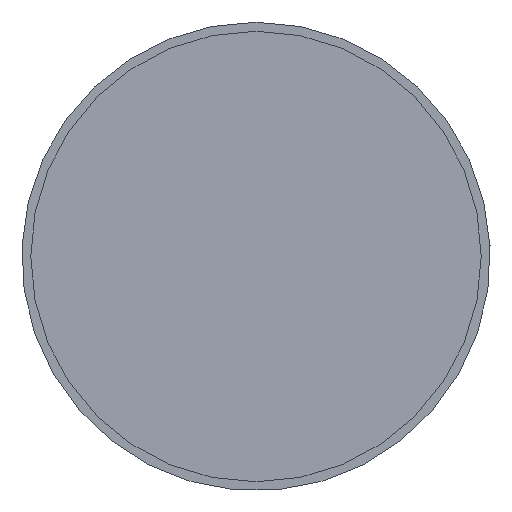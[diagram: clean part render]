
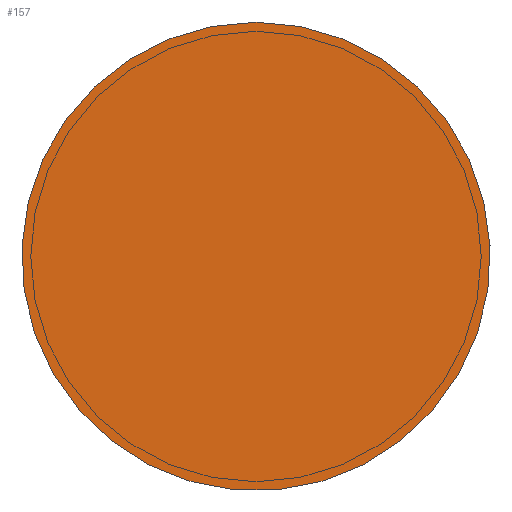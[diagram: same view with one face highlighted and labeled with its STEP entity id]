
A CAD part, left-side view. The second image highlights one B-rep face of the part: STEP entity #157.
In plain terms, the highlighted planar face has unit normal (-1, 0, 0).
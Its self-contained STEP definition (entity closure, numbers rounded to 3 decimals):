
#129 = VERTEX_POINT('',#130);
#130 = CARTESIAN_POINT('',(-5028.,0.,20.8));
#136 = EDGE_CURVE('',#129,#129,#137,.T.);
#137 = CIRCLE('',#138,20.8);
#138 = AXIS2_PLACEMENT_3D('',#139,#140,#141);
#139 = CARTESIAN_POINT('',(-5028.,0.,0.));
#140 = DIRECTION('',(1.,0.,0.));
#141 = DIRECTION('',(-0.,0.,1.));
#157 = ADVANCED_FACE('',(#158),#161,.F.);
#158 = FACE_BOUND('',#159,.T.);
#159 = EDGE_LOOP('',(#160));
#160 = ORIENTED_EDGE('',*,*,#136,.F.);
#161 = PLANE('',#162);
#162 = AXIS2_PLACEMENT_3D('',#163,#164,#165);
#163 = CARTESIAN_POINT('',(-5028.,0.,0.));
#164 = DIRECTION('',(1.,0.,0.));
#165 = DIRECTION('',(-0.,0.,1.));
